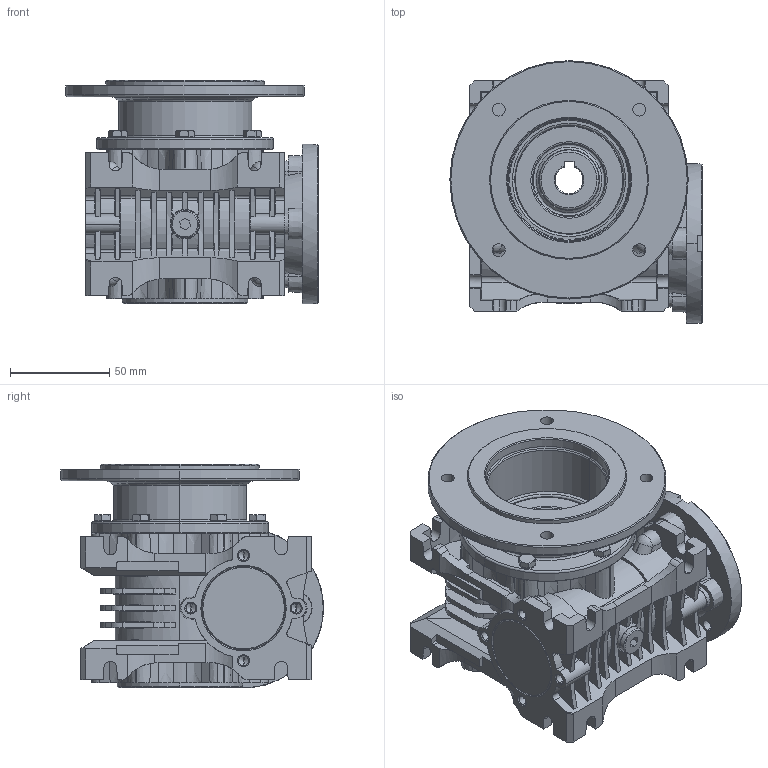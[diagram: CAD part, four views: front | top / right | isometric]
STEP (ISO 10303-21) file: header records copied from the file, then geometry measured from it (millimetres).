
FILE_DESCRIPTION (( 'STEP AP203' ), '1' );
FILE_NAME ('MR-32_80-9-K120_2-3D.STEP', '2022-01-24T18:20:41', ( '' ), ( '' ), 'SwSTEP 2.0', 'SolidWorks 2022', '' );
FILE_SCHEMA (( 'CONFIG_CONTROL_DESIGN' ));
Length unit declared in the file: millimetre
Products named in the file (1): MR-32_80-9-K120_2-3D
Bounding box: 127 x 132.11 x 112.71 mm (x, y, z)
Volume: 640558.5 mm3; surface area: 150612.4 mm2
Topology: 1 solids, 33 shells, 1896 faces, 4975 edges, 3173 vertices
Faces by surface type: plane 754, cone 572, cylinder 339, bspline 163, torus 62, sphere 6
Entity records: 65693 total; most frequent: CARTESIAN_POINT 21249, ORIENTED_EDGE 9842, DIRECTION 8669, EDGE_CURVE 4921, AXIS2_PLACEMENT_3D 3251, VERTEX_POINT 3173, VECTOR 2167, LINE 2167
